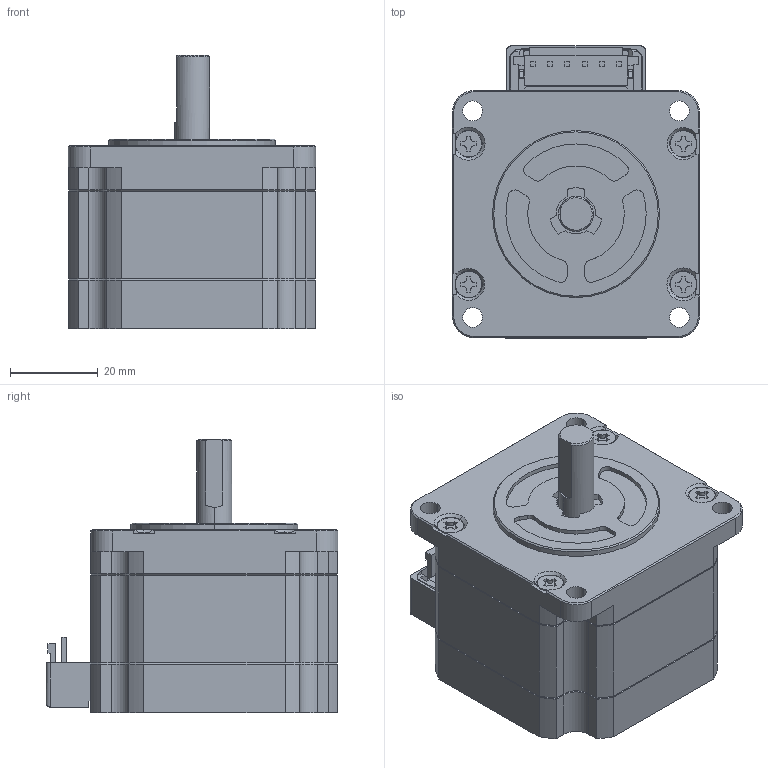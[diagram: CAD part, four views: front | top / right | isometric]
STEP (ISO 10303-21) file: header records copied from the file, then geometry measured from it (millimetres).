
FILE_DESCRIPTION (( 'STEP AP203' ), '1' );
FILE_NAME ('SM2561C10U41.STEP', '2021-05-07T07:32:54', ( '' ), ( '' ), 'SwSTEP 2.0', 'SolidWorks 2019', '' );
FILE_SCHEMA (( 'CONFIG_CONTROL_DESIGN' ));
Length unit declared in the file: millimetre
Products named in the file (10): SM2561C10U41; Copy of OUTPUT SHAFT^01124239; Copy of TERMINAL^01124239; Copy of SUBSTRATE^Copy of TERMINAL_01124239; Copy of SCREW^01124239; Copy of STATOR^01124239; Copy of REAR COVER^01124239; Copy of FRONT COVER^01124239; Copy of CONNECTOR^Copy of TERMINAL_01124239; Copy of INSULATOR_REAR^01124239_コネクタタイプ（10.1L）
Assembly tree (12 placements, depth 3):
  SM2561C10U41
    Copy of FRONT COVER^01124239
    Copy of STATOR^01124239
    Copy of INSULATOR_REAR^01124239_コネクタタイプ（10.1L）
    Copy of TERMINAL^01124239
      Copy of SUBSTRATE^Copy of TERMINAL_01124239
      Copy of CONNECTOR^Copy of TERMINAL_01124239
    Copy of REAR COVER^01124239
    Copy of OUTPUT SHAFT^01124239
    Copy of SCREW^01124239  x4
Bounding box: 56.4 x 66.6 x 62.35 mm (x, y, z)
Volume: 139225 mm3; surface area: 37973 mm2
Topology: 11 solids, 11 shells, 622 faces, 1619 edges, 1045 vertices
Faces by surface type: plane 402, cylinder 159, cone 61
Entity records: 18074 total; most frequent: CARTESIAN_POINT 3089, ORIENTED_EDGE 2890, DIRECTION 2874, EDGE_CURVE 1445, LINE 1058, VECTOR 1058, VERTEX_POINT 931, AXIS2_PLACEMENT_3D 908
